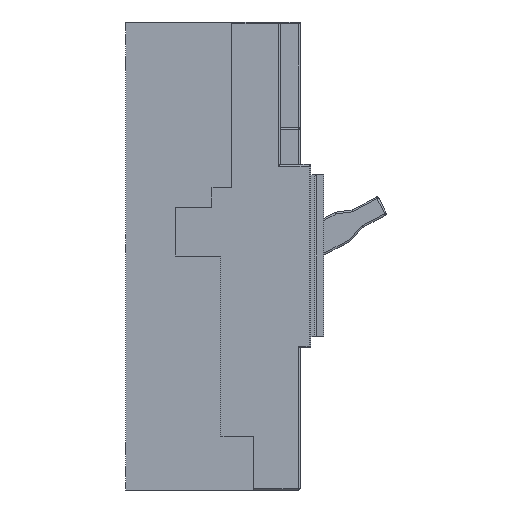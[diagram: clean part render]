
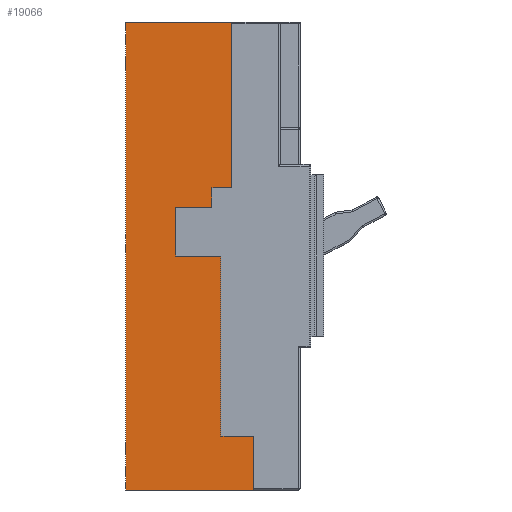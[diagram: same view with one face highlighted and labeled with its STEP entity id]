
A CAD part, left-side view. The second image highlights one B-rep face of the part: STEP entity #19066.
In plain terms, the highlighted planar face has unit normal (-1, 0, 0).
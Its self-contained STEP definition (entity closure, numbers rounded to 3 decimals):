
#4717=DIRECTION('',(0.,1.,0.));
#4718=VECTOR('',#4717,71.);
#4719=CARTESIAN_POINT('',(-92.7,-22.5,-130.));
#4720=LINE('',#4719,#4718);
#4721=DIRECTION('',(0.,0.,1.));
#4722=VECTOR('',#4721,260.);
#4723=CARTESIAN_POINT('',(-92.7,48.5,-130.));
#4724=LINE('',#4723,#4722);
#4725=DIRECTION('',(0.,-1.,0.));
#4726=VECTOR('',#4725,59.);
#4727=CARTESIAN_POINT('',(-92.7,48.5,130.));
#4728=LINE('',#4727,#4726);
#4729=DIRECTION('',(0.,0.,-1.));
#4730=VECTOR('',#4729,92.);
#4731=CARTESIAN_POINT('',(-92.7,-10.5,130.));
#4732=LINE('',#4731,#4730);
#4733=DIRECTION('',(0.,1.,0.));
#4734=VECTOR('',#4733,11.);
#4735=CARTESIAN_POINT('',(-92.7,-10.5,38.));
#4736=LINE('',#4735,#4734);
#4737=DIRECTION('',(0.,0.,-1.));
#4738=VECTOR('',#4737,11.);
#4739=CARTESIAN_POINT('',(-92.7,0.5,38.));
#4740=LINE('',#4739,#4738);
#4741=DIRECTION('',(0.,1.,0.));
#4742=VECTOR('',#4741,20.);
#4743=CARTESIAN_POINT('',(-92.7,0.5,27.));
#4744=LINE('',#4743,#4742);
#4745=DIRECTION('',(0.,0.,-1.));
#4746=VECTOR('',#4745,27.);
#4747=CARTESIAN_POINT('',(-92.7,20.5,27.));
#4748=LINE('',#4747,#4746);
#4749=DIRECTION('',(0.,-1.,0.));
#4750=VECTOR('',#4749,25.);
#4751=CARTESIAN_POINT('',(-92.7,20.5,0.));
#4752=LINE('',#4751,#4750);
#4753=DIRECTION('',(0.,0.,-1.));
#4754=VECTOR('',#4753,100.);
#4755=CARTESIAN_POINT('',(-92.7,-4.5,0.));
#4756=LINE('',#4755,#4754);
#4757=DIRECTION('',(0.,-1.,0.));
#4758=VECTOR('',#4757,18.);
#4759=CARTESIAN_POINT('',(-92.7,-4.5,-100.));
#4760=LINE('',#4759,#4758);
#4761=DIRECTION('',(0.,0.,-1.));
#4762=VECTOR('',#4761,30.);
#4763=CARTESIAN_POINT('',(-92.7,-22.5,-100.));
#4764=LINE('',#4763,#4762);
#11782=CARTESIAN_POINT('',(-92.7,-22.5,-130.));
#11783=CARTESIAN_POINT('',(-92.7,48.5,-130.));
#11784=VERTEX_POINT('',#11782);
#11785=VERTEX_POINT('',#11783);
#11786=CARTESIAN_POINT('',(-92.7,48.5,130.));
#11787=VERTEX_POINT('',#11786);
#11788=CARTESIAN_POINT('',(-92.7,-10.5,130.));
#11789=VERTEX_POINT('',#11788);
#11790=CARTESIAN_POINT('',(-92.7,-10.5,38.));
#11791=VERTEX_POINT('',#11790);
#11792=CARTESIAN_POINT('',(-92.7,0.5,38.));
#11793=VERTEX_POINT('',#11792);
#11794=CARTESIAN_POINT('',(-92.7,0.5,27.));
#11795=VERTEX_POINT('',#11794);
#11796=CARTESIAN_POINT('',(-92.7,20.5,27.));
#11797=VERTEX_POINT('',#11796);
#11798=CARTESIAN_POINT('',(-92.7,20.5,0.));
#11799=VERTEX_POINT('',#11798);
#11800=CARTESIAN_POINT('',(-92.7,-4.5,0.));
#11801=VERTEX_POINT('',#11800);
#11802=CARTESIAN_POINT('',(-92.7,-4.5,-100.));
#11803=VERTEX_POINT('',#11802);
#11804=CARTESIAN_POINT('',(-92.7,-22.5,-100.));
#11805=VERTEX_POINT('',#11804);
#19040=CARTESIAN_POINT('',(-92.7,0.,0.));
#19041=DIRECTION('',(1.,0.,0.));
#19042=DIRECTION('',(0.,0.,1.));
#19043=AXIS2_PLACEMENT_3D('',#19040,#19041,#19042);
#19044=PLANE('',#19043);
#19045=ORIENTED_EDGE('',*,*,#14066,.T.);
#19046=ORIENTED_EDGE('',*,*,#13136,.T.);
#19047=ORIENTED_EDGE('',*,*,#13014,.T.);
#19048=ORIENTED_EDGE('',*,*,#12828,.T.);
#19050=ORIENTED_EDGE('',*,*,#19049,.T.);
#19052=ORIENTED_EDGE('',*,*,#19051,.T.);
#19054=ORIENTED_EDGE('',*,*,#19053,.T.);
#19056=ORIENTED_EDGE('',*,*,#19055,.T.);
#19058=ORIENTED_EDGE('',*,*,#19057,.T.);
#19060=ORIENTED_EDGE('',*,*,#19059,.T.);
#19062=ORIENTED_EDGE('',*,*,#19061,.T.);
#19063=ORIENTED_EDGE('',*,*,#19033,.T.);
#19064=EDGE_LOOP('',(#19045,#19046,#19047,#19048,#19050,#19052,#19054,#19056,
#19058,#19060,#19062,#19063));
#19065=FACE_OUTER_BOUND('',#19064,.F.);
#12828=EDGE_CURVE('',#11789,#11791,#4732,.T.);
#13014=EDGE_CURVE('',#11787,#11789,#4728,.T.);
#13136=EDGE_CURVE('',#11785,#11787,#4724,.T.);
#14066=EDGE_CURVE('',#11784,#11785,#4720,.T.);
#19033=EDGE_CURVE('',#11805,#11784,#4764,.T.);
#19049=EDGE_CURVE('',#11791,#11793,#4736,.T.);
#19051=EDGE_CURVE('',#11793,#11795,#4740,.T.);
#19053=EDGE_CURVE('',#11795,#11797,#4744,.T.);
#19055=EDGE_CURVE('',#11797,#11799,#4748,.T.);
#19057=EDGE_CURVE('',#11799,#11801,#4752,.T.);
#19059=EDGE_CURVE('',#11801,#11803,#4756,.T.);
#19061=EDGE_CURVE('',#11803,#11805,#4760,.T.);
#19066=ADVANCED_FACE('',(#19065),#19044,.F.);
